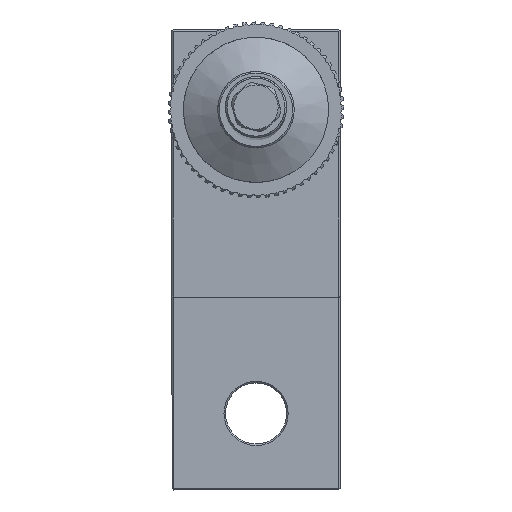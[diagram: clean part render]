
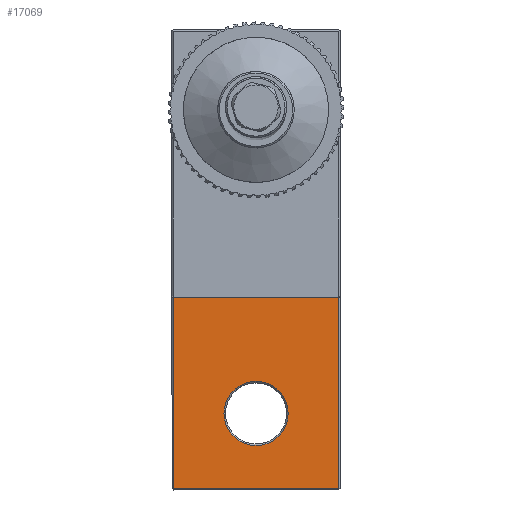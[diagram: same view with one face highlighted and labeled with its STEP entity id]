
A CAD part, top view. The second image highlights one B-rep face of the part: STEP entity #17069.
In plain terms, the highlighted planar face has unit normal (0, 0, 1).
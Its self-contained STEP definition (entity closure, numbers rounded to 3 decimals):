
#558 = ORIENTED_EDGE ( 'NONE', *, *, #8311, .T. ) ;
#698 = DIRECTION ( 'NONE',  ( 1., 0., 0. ) ) ;
#847 = VECTOR ( 'NONE', #26059, 1000. ) ;
#1778 = CARTESIAN_POINT ( 'NONE',  ( 10.815, -42.395, 22. ) ) ;
#2179 = VECTOR ( 'NONE', #14542, 1000. ) ;
#2944 = DIRECTION ( 'NONE',  ( 0., 0., -1. ) ) ;
#3049 = EDGE_CURVE ( 'NONE', #22588, #22588, #22093, .T. ) ;
#3341 = EDGE_LOOP ( 'NONE', ( #24221, #558, #14744, #12515 ) ) ;
#3921 = LINE ( 'NONE', #22543, #13749 ) ;
#4302 = VECTOR ( 'NONE', #15598, 1000. ) ;
#4769 = AXIS2_PLACEMENT_3D ( 'NONE', #23467, #10883, #698 ) ;
#4861 = FACE_OUTER_BOUND ( 'NONE', #3341, .T. ) ;
#5814 = CARTESIAN_POINT ( 'NONE',  ( -10.785, -42.405, 22. ) ) ;
#6135 = CARTESIAN_POINT ( 'NONE',  ( 10.785, 17.205, 22. ) ) ;
#6803 = EDGE_CURVE ( 'NONE', #17505, #22382, #3921, .T. ) ;
#7065 = VERTEX_POINT ( 'NONE', #1778 ) ;
#8311 = EDGE_CURVE ( 'NONE', #9872, #17505, #12140, .T. ) ;
#9872 = VERTEX_POINT ( 'NONE', #15217 ) ;
#10883 = DIRECTION ( 'NONE',  ( 0., 0., 1. ) ) ;
#11007 = PLANE ( 'NONE',  #4769 ) ;
#12140 = LINE ( 'NONE', #6135, #847 ) ;
#12348 = DIRECTION ( 'NONE',  ( 0.001, -1., 0. ) ) ;
#12515 = ORIENTED_EDGE ( 'NONE', *, *, #13789, .T. ) ;
#13262 = CARTESIAN_POINT ( 'NONE',  ( -10.815, 17.195, 22. ) ) ;
#13749 = VECTOR ( 'NONE', #12348, 1000. ) ;
#13789 = EDGE_CURVE ( 'NONE', #22382, #7065, #17724, .T. ) ;
#14542 = DIRECTION ( 'NONE',  ( -0.001, 1., 0. ) ) ;
#14744 = ORIENTED_EDGE ( 'NONE', *, *, #6803, .T. ) ;
#14762 = DIRECTION ( 'NONE',  ( 1., 0., 0. ) ) ;
#14817 = AXIS2_PLACEMENT_3D ( 'NONE', #21182, #2944, #14762 ) ;
#15217 = CARTESIAN_POINT ( 'NONE',  ( 10.785, 17.205, 22. ) ) ;
#15598 = DIRECTION ( 'NONE',  ( 1., 0.001, 0. ) ) ;
#16282 = CARTESIAN_POINT ( 'NONE',  ( 10.815, -42.395, 22. ) ) ;
#16355 = EDGE_CURVE ( 'NONE', #7065, #9872, #22052, .T. ) ;
#17069 = ADVANCED_FACE ( 'NONE', ( #4861, #23338 ), #11007, .T. ) ;
#17505 = VERTEX_POINT ( 'NONE', #13262 ) ;
#17724 = LINE ( 'NONE', #5814, #4302 ) ;
#19976 = EDGE_LOOP ( 'NONE', ( #21810 ) ) ;
#21182 = CARTESIAN_POINT ( 'NONE',  ( 0.01, -32.6, 22. ) ) ;
#21664 = CARTESIAN_POINT ( 'NONE',  ( -10.785, -42.405, 22. ) ) ;
#21810 = ORIENTED_EDGE ( 'NONE', *, *, #3049, .T. ) ;
#22052 = LINE ( 'NONE', #16282, #2179 ) ;
#22093 = CIRCLE ( 'NONE', #14817, 4.2 ) ;
#22382 = VERTEX_POINT ( 'NONE', #21664 ) ;
#22543 = CARTESIAN_POINT ( 'NONE',  ( -10.815, 17.195, 22. ) ) ;
#22588 = VERTEX_POINT ( 'NONE', #24857 ) ;
#23338 = FACE_BOUND ( 'NONE', #19976, .T. ) ;
#23467 = CARTESIAN_POINT ( 'NONE',  ( -10.985, -42.606, 22. ) ) ;
#24221 = ORIENTED_EDGE ( 'NONE', *, *, #16355, .T. ) ;
#24857 = CARTESIAN_POINT ( 'NONE',  ( 4.21, -32.6, 22. ) ) ;
#26059 = DIRECTION ( 'NONE',  ( -1., -0.001, 0. ) ) ;
